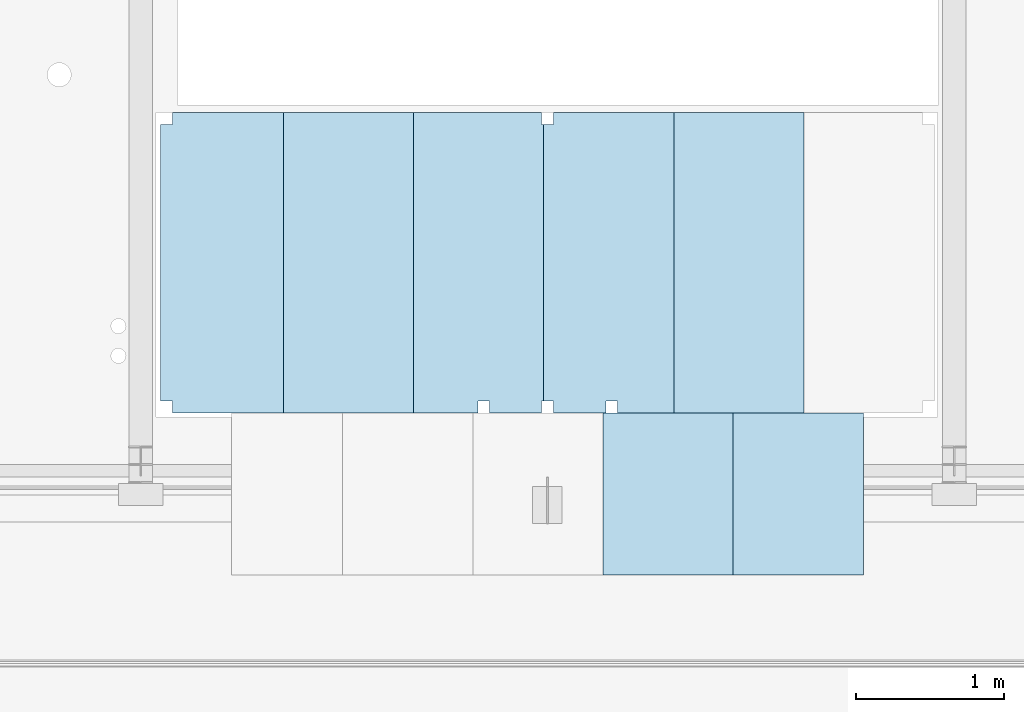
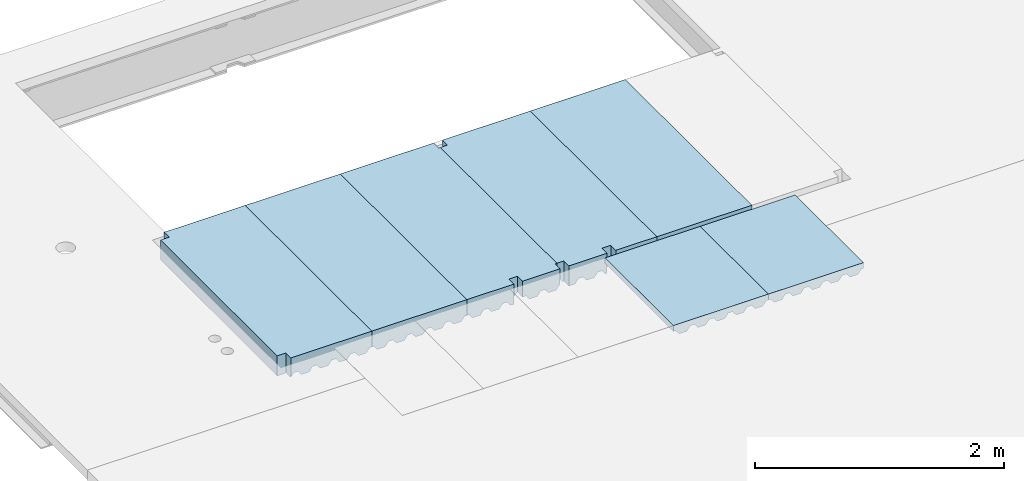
# One storey, part 11 of 13: 7 slabs.
"""IFC2X3 building model written with IfcOpenShell, lengths in millimetres."""

from ifc_helpers import new_model, entity, si_unit, converted_unit, derived_unit, direction, frame, origin_with_axes, place, context, subcontext, project, spatial, faceted_brep, material, type_object, element, save


model = new_model("IFC2X3")

# Units and contexts
model_context = context("Model", 3, precision=0.01, world=frame((0.0, 4.29681676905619e-09, 0.0)), true_north=direction((4.01073788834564e-13, 1.0)))
plan_context = context("Plan", 3, precision=0.01, world=frame((0.0, 4.29681676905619e-09, 0.0)), true_north=direction((4.01073788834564e-13, 1.0)))
body_context = subcontext(model_context, "Body", "Model", "MODEL_VIEW")
ifc_project = project(units=[converted_unit("PLANEANGLEUNIT", "DEGREE", entity("IfcPositiveLengthMeasure", 0.0174532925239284), si_unit("PLANEANGLEUNIT", "RADIAN"), dimensions=[0, 0, 0, 0, 0, 0, 0]), si_unit("AREAUNIT", "SQUARE_METRE"), si_unit("LENGTHUNIT", "METRE", prefix="MILLI"), si_unit("MASSUNIT", "GRAM", prefix="KILO"), si_unit("POWERUNIT", "WATT"), si_unit("PRESSUREUNIT", "PASCAL", prefix="KILO"), si_unit("FORCEUNIT", "NEWTON", prefix="KILO"), si_unit("ELECTRICVOLTAGEUNIT", "VOLT"), si_unit("ELECTRICCURRENTUNIT", "AMPERE"), si_unit("THERMODYNAMICTEMPERATUREUNIT", "DEGREE_CELSIUS"), si_unit("TIMEUNIT", "SECOND"), si_unit("VOLUMEUNIT", "CUBIC_METRE"), derived_unit("LINEARVELOCITYUNIT", [(si_unit("LENGTHUNIT", "METRE"), 1), (si_unit("TIMEUNIT", "SECOND"), -1)]), derived_unit("VOLUMETRICFLOWRATEUNIT", [(si_unit("VOLUMEUNIT", "CUBIC_METRE"), 1), (si_unit("TIMEUNIT", "SECOND"), -1)]), derived_unit("THERMALTRANSMITTANCEUNIT", [(si_unit("POWERUNIT", "WATT"), 1), (si_unit("THERMODYNAMICTEMPERATUREUNIT", "KELVIN"), -1), (si_unit("AREAUNIT", "SQUARE_METRE"), -1)]), derived_unit("SOUNDPRESSUREUNIT", [(si_unit("PRESSUREUNIT", "PASCAL"), 1)])], contexts=[model_context, plan_context])

# Site, building, storey
site_placement = place(None, frame((0.0, -4.29681676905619e-09, 0.0), z_axis=(0.0, 0.0, 1.0), x_axis=(1.0, 0.0, 0.0)))
site = spatial("IfcSite", under=ifc_project, at=site_placement, Name="Gardermoen", CompositionType="ELEMENT")
building_placement = place(site_placement, frame((0.0, 4.29681676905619e-09, 0.0), z_axis=(0.0, 0.0, 1.0), x_axis=(1.0, 0.0, 0.0)))
building = spatial("IfcBuilding", under=site, at=building_placement, Name="TG", CompositionType="ELEMENT")
storey_placement = place(building_placement, origin_with_axes())
storey = spatial("IfcBuildingStorey", under=building, at=storey_placement, Name="G", CompositionType="ELEMENT", Elevation=0.0)

# Slabs
ifc_material = material(Name="CONCRETE/C35/45")
slab_type_1 = type_object("IfcSlabType", Name="PLNJABE56.4*40*42.6*71*32.5", PredefinedType="NOTDEFINED")
slab_1_placement = place(storey_placement, frame((327316.0017314, 462614.999534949, 213610.5), z_axis=(0.0, 0.0, 1.0), x_axis=(-1.7069999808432e-06, -0.999999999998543, 0.0)))
element("IfcSlab", 1, at=slab_1_placement, inside=storey, type_object=slab_type_1, material=ifc_material, Name="PLASSTØPTDEKKE", ObjectType="PLNJABE56.4*40*42.6*71*32.5", PredefinedType="FLOOR", context=body_context, shape_type="Brep", body=[
    faceted_brep([(-9.89530235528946e-10, 420.00000000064, -6.89999999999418), (-1.04773789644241e-09, 440.00000000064, -6.89999999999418), (1095.00205200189, 440.000000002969, -6.89999999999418), (1095.00205200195, 420.000000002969, -6.89999999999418), (-1.04773789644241e-09, 440.00000000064, 49.5), (1095.00205200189, 440.000000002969, 49.5), (8.14907252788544e-10, -440.00000000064, 49.5), (1095.00205200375, -439.999999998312, 49.5), (8.14907252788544e-10, -440.00000000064, -6.89999999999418), (1095.00205200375, -439.999999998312, -6.89999999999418), (8.14907252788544e-10, -420.000000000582, -6.89999999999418), (1095.00205200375, -419.999999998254, -6.89999999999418), (7.56699591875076e-10, -387.500000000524, -49.5), (1095.00205200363, -387.499999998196, -49.5), (5.82076609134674e-10, -316.500000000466, -49.5), (1095.00205200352, -316.499999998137, -49.5), (5.23868948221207e-10, -284.000000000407, -6.89999999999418), (1095.00205200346, -283.999999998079, -6.89999999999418), (4.07453626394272e-10, -244.000000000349, -6.89999999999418), (1095.00205200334, -243.999999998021, -6.89999999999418), (3.49245965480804e-10, -211.500000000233, -49.5), (1095.00205200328, -211.499999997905, -49.5), (2.3283064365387e-10, -140.500000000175, -49.5), (1095.00205200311, -140.499999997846, -49.5), (1.16415321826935e-10, -108.000000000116, -6.89999999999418), (1095.00205200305, -107.999999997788, -6.89999999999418), (5.82076609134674e-11, -68.0000000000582, -6.89999999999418), (1095.00205200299, -67.9999999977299, -6.89999999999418), (0.0, -35.5000000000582, -49.5), (1095.00205200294, -35.4999999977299, -49.5), (-1.74622982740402e-10, 35.5000000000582, -49.5), (1095.00205200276, 35.5000000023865, -49.5), (-2.3283064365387e-10, 68.0000000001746, -6.89999999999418), (1095.0020520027, 68.0000000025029, -6.89999999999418), (-3.49245965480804e-10, 108.000000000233, -6.89999999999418), (1095.00205200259, 108.000000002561, -6.89999999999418), (-4.07453626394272e-10, 140.500000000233, -49.5), (1095.00205200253, 140.500000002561, -49.5), (-5.23868948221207e-10, 211.500000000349, -49.5), (1095.00205200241, 211.500000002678, -49.5), (-5.82076609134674e-10, 244.000000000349, -6.89999999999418), (1095.0020520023, 244.000000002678, -6.89999999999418), (-6.98491930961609e-10, 284.000000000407, -6.89999999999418), (1095.00205200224, 284.000000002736, -6.89999999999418), (-7.56699591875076e-10, 316.500000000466, -49.5), (1095.00205200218, 316.500000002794, -49.5), (-9.31322574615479e-10, 387.50000000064, -49.5), (1095.002052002, 387.500000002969, -49.5)], [[[0, 1, 2, 3]], [[1, 4, 5, 2]], [[4, 6, 7, 5]], [[6, 8, 9, 7]], [[8, 10, 11, 9]], [[10, 12, 13, 11]], [[12, 14, 15, 13]], [[14, 16, 17, 15]], [[16, 18, 19, 17]], [[18, 20, 21, 19]], [[20, 22, 23, 21]], [[22, 24, 25, 23]], [[24, 26, 27, 25]], [[26, 28, 29, 27]], [[28, 30, 31, 29]], [[30, 32, 33, 31]], [[32, 34, 35, 33]], [[34, 36, 37, 35]], [[36, 38, 39, 37]], [[38, 40, 41, 39]], [[40, 42, 43, 41]], [[42, 44, 45, 43]], [[44, 46, 47, 45]], [[46, 0, 3, 47]], [[5, 7, 9, 11, 13, 15, 17, 19, 21, 23, 25, 27, 29, 31, 33, 35, 37, 39, 41, 43, 45, 47, 3, 2]], [[46, 44, 42, 40, 38, 36, 34, 32, 30, 28, 26, 24, 22, 20, 18, 16, 14, 12, 10, 8, 6, 4, 1, 0]]]),
])
slab_2_placement = place(storey_placement, frame((328196.0017314, 462614.999534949, 213610.5), z_axis=(0.0, 0.0, 1.0), x_axis=(-1.7069999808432e-06, -0.999999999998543, 0.0)))
element("IfcSlab", 2, at=slab_2_placement, inside=storey, type_object=slab_type_1, material=ifc_material, Name="PLASSTØPTDEKKE", ObjectType="PLNJABE56.4*40*42.6*71*32.5", PredefinedType="FLOOR", context=body_context, shape_type="Brep", body=[
    faceted_brep([(-9.89530235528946e-10, 420.00000000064, -6.89999999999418), (-1.04773789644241e-09, 440.00000000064, -6.89999999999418), (1095.00205200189, 440.000000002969, -6.89999999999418), (1095.00205200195, 420.000000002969, -6.89999999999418), (-1.04773789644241e-09, 440.00000000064, 49.5), (1095.00205200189, 440.000000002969, 49.5), (8.14907252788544e-10, -440.00000000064, 49.5), (1095.00205200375, -439.999999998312, 49.5), (8.14907252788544e-10, -440.00000000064, -6.89999999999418), (1095.00205200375, -439.999999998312, -6.89999999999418), (8.14907252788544e-10, -420.000000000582, -6.89999999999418), (1095.00205200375, -419.999999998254, -6.89999999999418), (7.56699591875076e-10, -387.500000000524, -49.5), (1095.00205200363, -387.499999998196, -49.5), (5.82076609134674e-10, -316.500000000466, -49.5), (1095.00205200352, -316.499999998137, -49.5), (5.23868948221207e-10, -284.000000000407, -6.89999999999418), (1095.00205200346, -283.999999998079, -6.89999999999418), (4.07453626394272e-10, -244.000000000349, -6.89999999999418), (1095.00205200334, -243.999999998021, -6.89999999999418), (3.49245965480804e-10, -211.500000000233, -49.5), (1095.00205200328, -211.499999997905, -49.5), (2.3283064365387e-10, -140.500000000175, -49.5), (1095.00205200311, -140.499999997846, -49.5), (1.16415321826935e-10, -108.000000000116, -6.89999999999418), (1095.00205200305, -107.999999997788, -6.89999999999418), (5.82076609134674e-11, -68.0000000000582, -6.89999999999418), (1095.00205200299, -67.9999999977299, -6.89999999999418), (0.0, -35.5000000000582, -49.5), (1095.00205200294, -35.4999999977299, -49.5), (-1.74622982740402e-10, 35.5000000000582, -49.5), (1095.00205200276, 35.5000000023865, -49.5), (-2.3283064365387e-10, 68.0000000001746, -6.89999999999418), (1095.0020520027, 68.0000000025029, -6.89999999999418), (-3.49245965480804e-10, 108.000000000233, -6.89999999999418), (1095.00205200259, 108.000000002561, -6.89999999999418), (-4.07453626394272e-10, 140.500000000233, -49.5), (1095.00205200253, 140.500000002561, -49.5), (-5.23868948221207e-10, 211.500000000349, -49.5), (1095.00205200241, 211.500000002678, -49.5), (-5.82076609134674e-10, 244.000000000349, -6.89999999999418), (1095.0020520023, 244.000000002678, -6.89999999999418), (-6.98491930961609e-10, 284.000000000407, -6.89999999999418), (1095.00205200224, 284.000000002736, -6.89999999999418), (-7.56699591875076e-10, 316.500000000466, -49.5), (1095.00205200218, 316.500000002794, -49.5), (-9.31322574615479e-10, 387.50000000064, -49.5), (1095.002052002, 387.500000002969, -49.5)], [[[0, 1, 2, 3]], [[1, 4, 5, 2]], [[4, 6, 7, 5]], [[6, 8, 9, 7]], [[8, 10, 11, 9]], [[10, 12, 13, 11]], [[12, 14, 15, 13]], [[14, 16, 17, 15]], [[16, 18, 19, 17]], [[18, 20, 21, 19]], [[20, 22, 23, 21]], [[22, 24, 25, 23]], [[24, 26, 27, 25]], [[26, 28, 29, 27]], [[28, 30, 31, 29]], [[30, 32, 33, 31]], [[32, 34, 35, 33]], [[34, 36, 37, 35]], [[36, 38, 39, 37]], [[38, 40, 41, 39]], [[40, 42, 43, 41]], [[42, 44, 45, 43]], [[44, 46, 47, 45]], [[46, 0, 3, 47]], [[5, 7, 9, 11, 13, 15, 17, 19, 21, 23, 25, 27, 29, 31, 33, 35, 37, 39, 41, 43, 45, 47, 3, 2]], [[46, 44, 42, 40, 38, 36, 34, 32, 30, 28, 26, 24, 22, 20, 18, 16, 14, 12, 10, 8, 6, 4, 1, 0]]]),
])
slab_type_2 = type_object("IfcSlabType", Name="PLNJABE155*40*42.6*71*32.5", PredefinedType="NOTDEFINED")
slab_3_placement = place(storey_placement, frame((324275.0017314, 464644.999534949, 213599.8), z_axis=(0.0, 0.0, 1.0), x_axis=(0.0, -1.0, 0.0)))
element("IfcSlab", 3, at=slab_3_placement, inside=storey, type_object=slab_type_2, material=ifc_material, Name="PLASSTØPTDEKKE", ObjectType="PLNJABE155*40*42.6*71*32.5", PredefinedType="FLOOR", context=body_context, shape_type="Brep", body=[
    faceted_brep([(1949.99892308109, -390.000106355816, 98.7999999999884), (1949.99892308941, -389.999935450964, -95.5231615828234), (1949.99895118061, -387.500000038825, -98.7999999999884), (1949.99974755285, -316.500000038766, -98.7999999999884), (1949.99982046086, -309.999935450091, -90.2799153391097), (1949.99982046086, -309.999935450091, 98.7999999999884), (2029.99902488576, -310.000029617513, 98.7999999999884), (2030.00205199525, -310.000029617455, -90.2800387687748), (8.26548784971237e-09, 420.000000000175, -56.2000000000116), (8.67294147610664e-09, 440.000000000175, -56.2000000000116), (2030.00205201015, 439.999999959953, -56.2000000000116), (2030.00205200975, 419.999999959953, -56.2000000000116), (7.62520357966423e-09, 387.500000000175, -98.7999999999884), (2030.00205200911, 387.499999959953, -98.7999999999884), (6.17001205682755e-09, 316.500000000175, -98.7999999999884), (2030.00205200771, 316.499999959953, -98.7999999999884), (5.5297277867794e-09, 284.000000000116, -56.2000000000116), (2030.00205200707, 283.999999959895, -56.2000000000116), (4.77302819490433e-09, 244.000000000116, -56.2000000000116), (2030.00205200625, 243.999999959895, -56.2000000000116), (4.13274392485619e-09, 211.500000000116, -98.7999999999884), (2030.00205200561, 211.499999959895, -98.7999999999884), (2.6775524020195e-09, 140.500000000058, -98.7999999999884), (2030.00205200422, 140.499999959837, -98.7999999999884), (2.03726813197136e-09, 108.000000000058, -56.2000000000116), (2030.00205200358, 107.999999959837, -56.2000000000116), (1.28056854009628e-09, 68.0000000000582, -56.2000000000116), (2030.00205200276, 67.9999999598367, -56.2000000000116), (6.40284270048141e-10, 35.5, -98.7999999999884), (2030.00205200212, 35.4999999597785, -98.7999999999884), (-8.14907252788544e-10, -35.5, -98.7999999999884), (2030.00205200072, -35.5000000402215, -98.7999999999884), (-1.39698386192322e-09, -68.0, -56.2000000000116), (2030.00205200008, -68.0000000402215, -56.2000000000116), (-2.21189111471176e-09, -108.000000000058, -56.2000000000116), (2030.00205199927, -108.00000004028, -56.2000000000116), (-2.8521753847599e-09, -140.500000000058, -98.7999999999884), (2030.00205199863, -140.50000004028, -98.7999999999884), (-4.30736690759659e-09, -211.500000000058, -98.7999999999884), (2030.00205199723, -211.50000004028, -98.7999999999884), (-4.88944351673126e-09, -244.000000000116, -56.2000000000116), (2030.00205199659, -244.000000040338, -56.2000000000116), (-5.70435076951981e-09, -284.000000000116, -56.2000000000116), (2030.00205199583, -284.000000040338, -56.2000000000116), (79.9989230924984, -390.005823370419, 98.7999999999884), (79.9990248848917, -310.001825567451, 98.7999999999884), (79.9990248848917, -310.001825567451, -90.2823928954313), (79.9990166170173, -316.500000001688, -98.7999999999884), (79.9989262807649, -387.500000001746, -98.7999999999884), (79.9989230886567, -390.001657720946, -95.520904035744), (-6.22821971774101e-09, -310.001731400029, 98.7999999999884), (-6.22821971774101e-09, -310.001731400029, -90.2822694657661), (8.67294147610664e-09, 440.000000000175, 98.7999999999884), (2030.00205201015, 439.999999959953, 98.7999999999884)], [[[0, 1, 2, 3, 4, 5]], [[6, 5, 4, 7]], [[8, 9, 10, 11]], [[12, 8, 11, 13]], [[14, 12, 13, 15]], [[16, 14, 15, 17]], [[18, 16, 17, 19]], [[20, 18, 19, 21]], [[22, 20, 21, 23]], [[24, 22, 23, 25]], [[26, 24, 25, 27]], [[28, 26, 27, 29]], [[30, 28, 29, 31]], [[32, 30, 31, 33]], [[34, 32, 33, 35]], [[36, 34, 35, 37]], [[38, 36, 37, 39]], [[40, 38, 39, 41]], [[42, 40, 41, 43]], [[44, 45, 46, 47, 48, 49]], [[50, 51, 46, 45]], [[52, 9, 8, 12, 14, 16, 18, 20, 22, 24, 26, 28, 30, 32, 34, 36, 38, 40, 42, 51, 50]], [[9, 52, 53, 10]], [[43, 41, 39, 37, 35, 33, 31, 29, 27, 25, 23, 21, 19, 17, 15, 13, 11, 10, 53, 6, 7]], [[3, 47, 46, 51, 42, 43, 7, 4]], [[48, 47, 3, 2]], [[49, 48, 2, 1]], [[44, 49, 1, 0]], [[53, 52, 50, 45, 44, 0, 5, 6]]]),
])
slab_4_placement = place(storey_placement, frame((325155.0017314, 464644.999534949, 213599.8), z_axis=(0.0, 0.0, 1.0), x_axis=(0.0, -1.0, 0.0)))
element("IfcSlab", 4, at=slab_4_placement, inside=storey, type_object=slab_type_2, material=ifc_material, Name="PLASSTØPTDEKKE", ObjectType="PLNJABE155*40*42.6*71*32.5", PredefinedType="FLOOR", context=body_context, shape_type="Brep", body=[
    faceted_brep([(8.26548784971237e-09, 420.000000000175, -56.2000000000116), (8.67294147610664e-09, 440.000000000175, -56.2000000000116), (2030.00205201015, 439.999999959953, -56.2000000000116), (2030.00205200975, 419.999999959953, -56.2000000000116), (8.67294147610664e-09, 440.000000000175, 98.7999999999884), (2030.00205201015, 439.999999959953, 98.7999999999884), (-8.78935679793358e-09, -440.000000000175, 98.7999999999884), (2030.00205199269, -440.000000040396, 98.7999999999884), (-8.78935679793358e-09, -440.000000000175, -56.2000000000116), (2030.00205199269, -440.000000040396, -56.2000000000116), (-8.44011083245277e-09, -420.000000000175, -56.2000000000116), (2030.0020519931, -420.000000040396, -56.2000000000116), (-7.79982656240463e-09, -387.500000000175, -98.7999999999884), (2030.00205199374, -387.500000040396, -98.7999999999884), (-6.34463503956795e-09, -316.500000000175, -98.7999999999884), (2030.00205199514, -316.500000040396, -98.7999999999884), (-5.70435076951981e-09, -284.000000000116, -56.2000000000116), (2030.00205199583, -284.000000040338, -56.2000000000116), (-4.88944351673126e-09, -244.000000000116, -56.2000000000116), (2030.00205199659, -244.000000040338, -56.2000000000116), (-4.30736690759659e-09, -211.500000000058, -98.7999999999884), (2030.00205199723, -211.50000004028, -98.7999999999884), (-2.8521753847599e-09, -140.500000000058, -98.7999999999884), (2030.00205199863, -140.50000004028, -98.7999999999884), (-2.21189111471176e-09, -108.000000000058, -56.2000000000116), (2030.00205199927, -108.00000004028, -56.2000000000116), (-1.39698386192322e-09, -68.0, -56.2000000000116), (2030.00205200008, -68.0000000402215, -56.2000000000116), (-8.14907252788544e-10, -35.5, -98.7999999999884), (2030.00205200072, -35.5000000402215, -98.7999999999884), (6.40284270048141e-10, 35.5, -98.7999999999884), (2030.00205200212, 35.4999999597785, -98.7999999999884), (1.28056854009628e-09, 68.0000000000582, -56.2000000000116), (2030.00205200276, 67.9999999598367, -56.2000000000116), (2.03726813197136e-09, 108.000000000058, -56.2000000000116), (2030.00205200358, 107.999999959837, -56.2000000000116), (2.6775524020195e-09, 140.500000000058, -98.7999999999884), (2030.00205200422, 140.499999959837, -98.7999999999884), (4.13274392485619e-09, 211.500000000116, -98.7999999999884), (2030.00205200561, 211.499999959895, -98.7999999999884), (4.77302819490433e-09, 244.000000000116, -56.2000000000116), (2030.00205200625, 243.999999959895, -56.2000000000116), (5.5297277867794e-09, 284.000000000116, -56.2000000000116), (2030.00205200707, 283.999999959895, -56.2000000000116), (6.17001205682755e-09, 316.500000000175, -98.7999999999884), (2030.00205200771, 316.499999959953, -98.7999999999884), (7.62520357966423e-09, 387.500000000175, -98.7999999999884), (2030.00205200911, 387.499999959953, -98.7999999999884)], [[[0, 1, 2, 3]], [[1, 4, 5, 2]], [[4, 6, 7, 5]], [[6, 8, 9, 7]], [[8, 10, 11, 9]], [[10, 12, 13, 11]], [[12, 14, 15, 13]], [[14, 16, 17, 15]], [[16, 18, 19, 17]], [[18, 20, 21, 19]], [[20, 22, 23, 21]], [[22, 24, 25, 23]], [[24, 26, 27, 25]], [[26, 28, 29, 27]], [[28, 30, 31, 29]], [[30, 32, 33, 31]], [[32, 34, 35, 33]], [[34, 36, 37, 35]], [[36, 38, 39, 37]], [[38, 40, 41, 39]], [[40, 42, 43, 41]], [[42, 44, 45, 43]], [[44, 46, 47, 45]], [[46, 0, 3, 47]], [[5, 7, 9, 11, 13, 15, 17, 19, 21, 23, 25, 27, 29, 31, 33, 35, 37, 39, 41, 43, 45, 47, 3, 2]], [[46, 44, 42, 40, 38, 36, 34, 32, 30, 28, 26, 24, 22, 20, 18, 16, 14, 12, 10, 8, 6, 4, 1, 0]]]),
])
slab_5_placement = place(storey_placement, frame((326035.0017314, 464644.999534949, 213599.8), z_axis=(0.0, 0.0, 1.0), x_axis=(0.0, -1.0, 0.0)))
element("IfcSlab", 5, at=slab_5_placement, inside=storey, type_object=slab_type_2, material=ifc_material, Name="PLASSTØPTDEKKE", ObjectType="PLNJABE155*40*42.6*71*32.5", PredefinedType="FLOOR", context=body_context, shape_type="Brep", body=[
    faceted_brep([(-8.78935679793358e-09, -440.000000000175, -56.2000000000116), (-8.44011083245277e-09, -420.000000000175, -56.2000000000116), (2030.0020519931, -420.000000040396, -56.2000000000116), (2030.00205199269, -440.000000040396, -56.2000000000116), (-7.79982656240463e-09, -387.500000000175, -98.7999999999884), (2030.00205199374, -387.500000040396, -98.7999999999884), (-6.34463503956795e-09, -316.500000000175, -98.7999999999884), (2030.00205199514, -316.500000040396, -98.7999999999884), (-5.70435076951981e-09, -284.000000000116, -56.2000000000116), (2030.00205199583, -284.000000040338, -56.2000000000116), (-4.88944351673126e-09, -244.000000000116, -56.2000000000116), (2030.00205199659, -244.000000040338, -56.2000000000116), (-4.30736690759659e-09, -211.500000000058, -98.7999999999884), (2030.00205199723, -211.50000004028, -98.7999999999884), (-2.8521753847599e-09, -140.500000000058, -98.7999999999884), (2030.00205199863, -140.50000004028, -98.7999999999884), (-2.21189111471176e-09, -108.000000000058, -56.2000000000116), (2030.00205199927, -108.00000004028, -56.2000000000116), (-1.39698386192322e-09, -68.0, -56.2000000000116), (2030.00205200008, -68.0000000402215, -56.2000000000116), (-8.14907252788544e-10, -35.5, -98.7999999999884), (2030.00205200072, -35.5000000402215, -98.7999999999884), (6.40284270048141e-10, 35.5, -98.7999999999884), (1949.999022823, 35.4999999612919, -98.7999999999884), (1949.99856850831, -5.00410110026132, -98.7999999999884), (2030.00205200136, -5.00402742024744, -98.7999999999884), (1.28056854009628e-09, 68.0000000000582, -56.2000000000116), (1949.99938735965, 67.9999999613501, -56.2000000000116), (2.03726813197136e-09, 108.000000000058, -56.2000000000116), (2.6775524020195e-09, 140.500000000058, -98.7999999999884), (2030.00205200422, 140.499999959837, -98.7999999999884), (2030.00205200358, 107.999999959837, -56.2000000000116), (4.13274392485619e-09, 211.500000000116, -98.7999999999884), (2030.00205200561, 211.499999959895, -98.7999999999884), (4.77302819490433e-09, 244.000000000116, -56.2000000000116), (2030.00205200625, 243.999999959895, -56.2000000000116), (5.5297277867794e-09, 284.000000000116, -56.2000000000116), (2030.00205200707, 283.999999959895, -56.2000000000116), (6.17001205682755e-09, 316.500000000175, -98.7999999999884), (2030.00205200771, 316.499999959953, -98.7999999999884), (7.62520357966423e-09, 387.500000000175, -98.7999999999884), (2030.00205200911, 387.499999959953, -98.7999999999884), (8.26548784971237e-09, 420.000000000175, -56.2000000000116), (2030.00205200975, 419.999999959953, -56.2000000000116), (2030.00205200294, 74.9999703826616, 98.7999999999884), (2030.00205200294, 74.9999703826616, -56.2000000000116), (2030.00205200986, 424.995972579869, -56.2000000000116), (2029.9981724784, 424.995972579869, 98.7999999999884), (1949.99946587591, 75.0000645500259, -56.2000000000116), (1949.99946587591, 75.0000645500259, 98.7999999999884), (1949.99856850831, -5.00410110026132, 98.7999999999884), (2029.99856850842, -5.00402742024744, 98.7999999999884), (2030.00205199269, -440.000000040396, 98.7999999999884), (-8.78935679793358e-09, -440.000000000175, 98.7999999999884), (8.38190317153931e-09, 424.994102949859, 98.7999999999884), (8.38190317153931e-09, 424.994102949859, -56.2000000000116), (79.998172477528, 424.994176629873, 98.7999999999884), (79.998172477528, 424.994176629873, -56.2000000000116), (79.9981915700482, 439.999999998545, 98.7999999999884), (79.9981915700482, 439.999999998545, -56.2000000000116), (1949.99834077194, 439.999999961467, -56.2000000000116), (1949.99817247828, 424.995898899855, -56.2000000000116), (1949.99817247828, 424.995898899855, 98.7999999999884), (1949.99834077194, 439.999999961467, 98.7999999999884)], [[[0, 1, 2, 3]], [[1, 4, 5, 2]], [[4, 6, 7, 5]], [[6, 8, 9, 7]], [[8, 10, 11, 9]], [[10, 12, 13, 11]], [[12, 14, 15, 13]], [[14, 16, 17, 15]], [[16, 18, 19, 17]], [[18, 20, 21, 19]], [[21, 20, 22, 23, 24, 25]], [[22, 26, 27, 23]], [[28, 29, 30, 31]], [[29, 32, 33, 30]], [[32, 34, 35, 33]], [[34, 36, 37, 35]], [[36, 38, 39, 37]], [[38, 40, 41, 39]], [[40, 42, 43, 41]], [[44, 45, 31, 30, 33, 35, 37, 39, 41, 43, 46, 47]], [[27, 26, 28, 31, 45, 48]], [[44, 49, 48, 45]], [[50, 24, 23, 27, 48, 49]], [[51, 25, 24, 50]], [[52, 3, 2, 5, 7, 9, 11, 13, 15, 17, 19, 21, 25, 51]], [[53, 0, 3, 52]], [[42, 40, 38, 36, 34, 32, 29, 28, 26, 22, 20, 18, 16, 14, 12, 10, 8, 6, 4, 1, 0, 53, 54, 55]], [[56, 57, 55, 54]], [[58, 59, 57, 56]], [[43, 42, 55, 57, 59, 60, 61, 46]], [[47, 46, 61, 62]], [[63, 58, 56, 54, 53, 52, 51, 50, 49, 44, 47, 62]], [[59, 58, 63, 60]], [[62, 61, 60, 63]]]),
])
slab_6_placement = place(storey_placement, frame((326915.0017314, 464644.999534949, 213599.8), z_axis=(0.0, 0.0, 1.0), x_axis=(0.0, -1.0, 0.0)))
element("IfcSlab", 6, at=slab_6_placement, inside=storey, type_object=slab_type_2, material=ifc_material, Name="PLASSTØPTDEKKE", ObjectType="PLNJABE155*40*42.6*71*32.5", PredefinedType="FLOOR", context=body_context, shape_type="Brep", body=[
    faceted_brep([(-7.45058059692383e-09, -375.001731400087, 98.7999999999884), (-7.45058059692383e-09, -375.001731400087, -98.7999999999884), (79.9990847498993, -375.001825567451, -98.7999999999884), (79.9990847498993, -375.001825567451, 98.7999999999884), (79.9990020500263, -440.000000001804, 98.7999999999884), (79.9990688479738, -387.500000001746, -98.7999999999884), (79.9990274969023, -420.000000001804, -56.2000000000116), (79.9990020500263, -440.000000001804, -56.2000000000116), (-6.34463503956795e-09, -316.500000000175, -98.7999999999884), (-5.70435076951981e-09, -284.000000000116, -56.2000000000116), (2030.00205199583, -284.000000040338, -56.2000000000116), (2030.00205199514, -316.500000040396, -98.7999999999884), (-4.88944351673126e-09, -244.000000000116, -56.2000000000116), (2030.00205199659, -244.000000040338, -56.2000000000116), (-4.30736690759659e-09, -211.500000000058, -98.7999999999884), (2030.00205199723, -211.50000004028, -98.7999999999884), (-2.8521753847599e-09, -140.500000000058, -98.7999999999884), (2030.00205199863, -140.50000004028, -98.7999999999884), (-2.21189111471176e-09, -108.000000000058, -56.2000000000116), (2030.00205199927, -108.00000004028, -56.2000000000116), (-1.39698386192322e-09, -68.0, -56.2000000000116), (2030.00205200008, -68.0000000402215, -56.2000000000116), (-8.14907252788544e-10, -35.5, -98.7999999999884), (2030.00205200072, -35.5000000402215, -98.7999999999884), (6.40284270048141e-10, 35.5, -98.7999999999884), (1949.99920488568, 35.4999999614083, -98.7999999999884), (1949.99858232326, -20.0041011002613, -98.7999999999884), (2030.00205200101, -20.0040274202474, -98.7999999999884), (1.28056854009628e-09, 68.0000000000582, -56.2000000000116), (2.03726813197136e-09, 108.000000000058, -56.2000000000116), (2030.00205200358, 107.999999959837, -56.2000000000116), (2030.00205200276, 67.9999999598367, -56.2000000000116), (2.6775524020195e-09, 140.500000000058, -98.7999999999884), (2030.00205200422, 140.499999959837, -98.7999999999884), (4.13274392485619e-09, 211.500000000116, -98.7999999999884), (2030.00205200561, 211.499999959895, -98.7999999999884), (4.77302819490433e-09, 244.000000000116, -56.2000000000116), (2030.00205200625, 243.999999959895, -56.2000000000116), (5.5297277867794e-09, 284.000000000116, -56.2000000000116), (2030.00205200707, 283.999999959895, -56.2000000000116), (6.17001205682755e-09, 316.500000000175, -98.7999999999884), (2030.00205200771, 316.499999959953, -98.7999999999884), (7.62520357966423e-09, 387.500000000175, -98.7999999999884), (2030.00205200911, 387.499999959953, -98.7999999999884), (8.26548784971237e-09, 420.000000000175, -56.2000000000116), (2030.00205200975, 419.999999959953, -56.2000000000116), (8.67294147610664e-09, 440.000000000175, -56.2000000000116), (2030.00205201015, 439.999999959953, -56.2000000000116), (8.67294147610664e-09, 440.000000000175, 98.7999999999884), (2030.00205201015, 439.999999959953, 98.7999999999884), (2030.00205200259, 59.9999703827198, 98.7999999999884), (2030.00205200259, 59.9999703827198, -66.6861926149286), (1949.99947969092, 60.0000645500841, -66.6860691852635), (1949.99947969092, 60.0000645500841, 98.7999999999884), (1949.99858232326, -20.0041011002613, 98.7999999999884), (2029.99858232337, -20.0040274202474, 98.7999999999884), (2029.99908475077, -375.000029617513, 98.7999999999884), (2030.00205199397, -375.000029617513, -98.7999999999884), (1949.99988032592, -374.999935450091, 98.7999999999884), (1949.99988032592, -374.999935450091, -98.7999999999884), (1949.99915125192, -440.000000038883, 98.7999999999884), (1949.99915125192, -440.000000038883, -56.2000000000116), (1949.99937558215, -420.000000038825, -56.2000000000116), (1949.9997401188, -387.500000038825, -98.7999999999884)], [[[0, 1, 2, 3]], [[4, 3, 2, 5, 6, 7]], [[8, 9, 10, 11]], [[9, 12, 13, 10]], [[12, 14, 15, 13]], [[14, 16, 17, 15]], [[16, 18, 19, 17]], [[18, 20, 21, 19]], [[20, 22, 23, 21]], [[23, 22, 24, 25, 26, 27]], [[28, 29, 30, 31]], [[29, 32, 33, 30]], [[32, 34, 35, 33]], [[34, 36, 37, 35]], [[36, 38, 39, 37]], [[38, 40, 41, 39]], [[40, 42, 43, 41]], [[42, 44, 45, 43]], [[44, 46, 47, 45]], [[46, 48, 49, 47]], [[31, 30, 33, 35, 37, 39, 41, 43, 45, 47, 49, 50, 51]], [[25, 24, 28, 31, 51, 52]], [[50, 53, 52, 51]], [[54, 26, 25, 52, 53]], [[55, 27, 26, 54]], [[11, 10, 13, 15, 17, 19, 21, 23, 27, 55, 56, 57]], [[56, 58, 59, 57]], [[60, 61, 62, 63, 59, 58]], [[61, 60, 4, 7]], [[62, 61, 7, 6]], [[63, 62, 6, 5]], [[1, 8, 11, 57, 59, 63, 5, 2]], [[48, 46, 44, 42, 40, 38, 36, 34, 32, 29, 28, 24, 22, 20, 18, 16, 14, 12, 9, 8, 1, 0]], [[60, 58, 56, 55, 54, 53, 50, 49, 48, 0, 3, 4]]]),
])
slab_7_placement = place(storey_placement, frame((327795.0017314, 464644.999534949, 213599.8), z_axis=(0.0, 0.0, 1.0), x_axis=(0.0, -1.0, 0.0)))
element("IfcSlab", 7, at=slab_7_placement, inside=storey, type_object=slab_type_2, material=ifc_material, Name="PLASSTØPTDEKKE", ObjectType="PLNJABE155*40*42.6*71*32.5", PredefinedType="FLOOR", context=body_context, shape_type="Brep", body=[
    faceted_brep([(8.26548784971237e-09, 420.000000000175, -56.2000000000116), (8.67294147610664e-09, 440.000000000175, -56.2000000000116), (2030.00205201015, 439.999999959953, -56.2000000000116), (2030.00205200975, 419.999999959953, -56.2000000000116), (8.67294147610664e-09, 440.000000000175, 98.7999999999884), (2030.00205201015, 439.999999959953, 98.7999999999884), (-8.78935679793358e-09, -440.000000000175, 98.7999999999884), (2030.00205199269, -440.000000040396, 98.7999999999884), (-8.78935679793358e-09, -440.000000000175, -56.2000000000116), (2030.00205199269, -440.000000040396, -56.2000000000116), (-8.44011083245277e-09, -420.000000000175, -56.2000000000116), (2030.0020519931, -420.000000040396, -56.2000000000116), (-7.79982656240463e-09, -387.500000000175, -98.7999999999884), (2030.00205199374, -387.500000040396, -98.7999999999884), (-6.34463503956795e-09, -316.500000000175, -98.7999999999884), (2030.00205199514, -316.500000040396, -98.7999999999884), (-5.70435076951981e-09, -284.000000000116, -56.2000000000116), (2030.00205199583, -284.000000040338, -56.2000000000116), (-4.88944351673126e-09, -244.000000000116, -56.2000000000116), (2030.00205199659, -244.000000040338, -56.2000000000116), (-4.30736690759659e-09, -211.500000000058, -98.7999999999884), (2030.00205199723, -211.50000004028, -98.7999999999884), (-2.8521753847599e-09, -140.500000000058, -98.7999999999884), (2030.00205199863, -140.50000004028, -98.7999999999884), (-2.21189111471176e-09, -108.000000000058, -56.2000000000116), (2030.00205199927, -108.00000004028, -56.2000000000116), (-1.39698386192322e-09, -68.0, -56.2000000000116), (2030.00205200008, -68.0000000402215, -56.2000000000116), (-8.14907252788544e-10, -35.5, -98.7999999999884), (2030.00205200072, -35.5000000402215, -98.7999999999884), (6.40284270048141e-10, 35.5, -98.7999999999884), (2030.00205200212, 35.4999999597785, -98.7999999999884), (1.28056854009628e-09, 68.0000000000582, -56.2000000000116), (2030.00205200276, 67.9999999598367, -56.2000000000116), (2.03726813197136e-09, 108.000000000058, -56.2000000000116), (2030.00205200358, 107.999999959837, -56.2000000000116), (2.6775524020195e-09, 140.500000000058, -98.7999999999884), (2030.00205200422, 140.499999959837, -98.7999999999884), (4.13274392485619e-09, 211.500000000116, -98.7999999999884), (2030.00205200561, 211.499999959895, -98.7999999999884), (4.77302819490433e-09, 244.000000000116, -56.2000000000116), (2030.00205200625, 243.999999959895, -56.2000000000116), (5.5297277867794e-09, 284.000000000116, -56.2000000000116), (2030.00205200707, 283.999999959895, -56.2000000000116), (6.17001205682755e-09, 316.500000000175, -98.7999999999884), (2030.00205200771, 316.499999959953, -98.7999999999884), (7.62520357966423e-09, 387.500000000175, -98.7999999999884), (2030.00205200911, 387.499999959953, -98.7999999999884)], [[[0, 1, 2, 3]], [[1, 4, 5, 2]], [[4, 6, 7, 5]], [[6, 8, 9, 7]], [[8, 10, 11, 9]], [[10, 12, 13, 11]], [[12, 14, 15, 13]], [[14, 16, 17, 15]], [[16, 18, 19, 17]], [[18, 20, 21, 19]], [[20, 22, 23, 21]], [[22, 24, 25, 23]], [[24, 26, 27, 25]], [[26, 28, 29, 27]], [[28, 30, 31, 29]], [[30, 32, 33, 31]], [[32, 34, 35, 33]], [[34, 36, 37, 35]], [[36, 38, 39, 37]], [[38, 40, 41, 39]], [[40, 42, 43, 41]], [[42, 44, 45, 43]], [[44, 46, 47, 45]], [[46, 0, 3, 47]], [[5, 7, 9, 11, 13, 15, 17, 19, 21, 23, 25, 27, 29, 31, 33, 35, 37, 39, 41, 43, 45, 47, 3, 2]], [[46, 44, 42, 40, 38, 36, 34, 32, 30, 28, 26, 24, 22, 20, 18, 16, 14, 12, 10, 8, 6, 4, 1, 0]]]),
])

save(model, "model.ifc")
